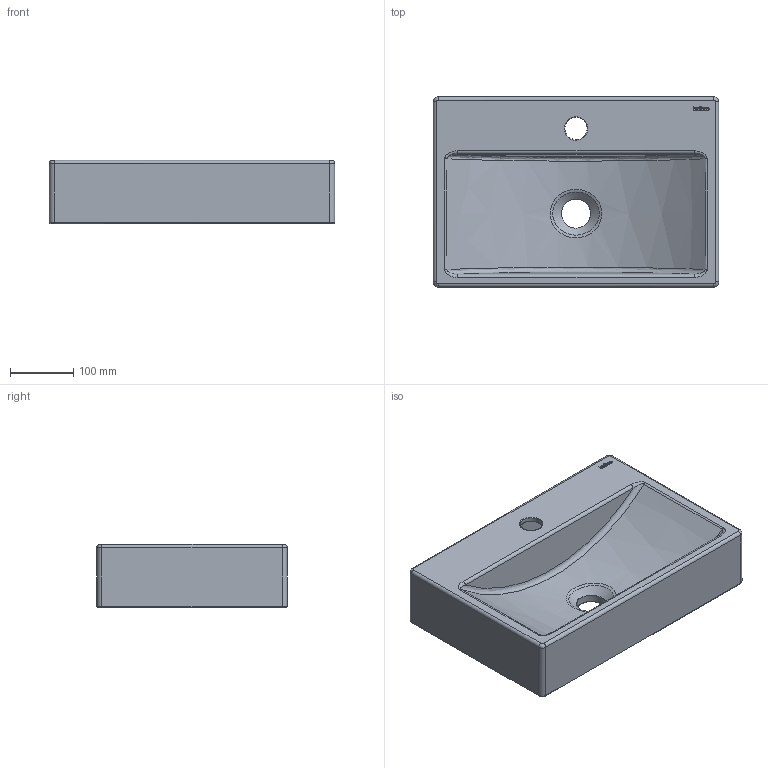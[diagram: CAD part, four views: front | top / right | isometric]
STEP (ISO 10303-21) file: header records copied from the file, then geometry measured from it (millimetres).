
FILE_DESCRIPTION(/* description */ (''),/* implementation_level */ '2;1');
FILE_NAME(/* name */ '4055_P~1',/* time_stamp */ '2022-03-04T10:30:03+01:00',/* author */ (''),/* organization */ (''),/* preprocessor_version */ 'ST-DEVELOPER v16.5',/* originating_system */ '',/* authorisation */ '');
FILE_SCHEMA (('CONFIG_CONTROL_DESIGN'));
Length unit declared in the file: millimetre
Products named in the file (1): Document
Bounding box: 450 x 300 x 100.19 mm (x, y, z)
Volume: 2491422.6 mm3; surface area: 628948.6 mm2
Topology: 7 solids, 7 shells, 159 faces, 364 edges, 222 vertices
Faces by surface type: plane 65, bspline 64, cylinder 30
Full cylindrical faces by diameter (mm): 35 x1, 46 x1
Entity records: 6411 total; most frequent: CARTESIAN_POINT 3972, ORIENTED_EDGE 728, EDGE_CURVE 364, VERTEX_POINT 222, B_SPLINE_CURVE_WITH_KNOTS 217, EDGE_LOOP 172, ADVANCED_FACE 159, FACE_OUTER_BOUND 159
